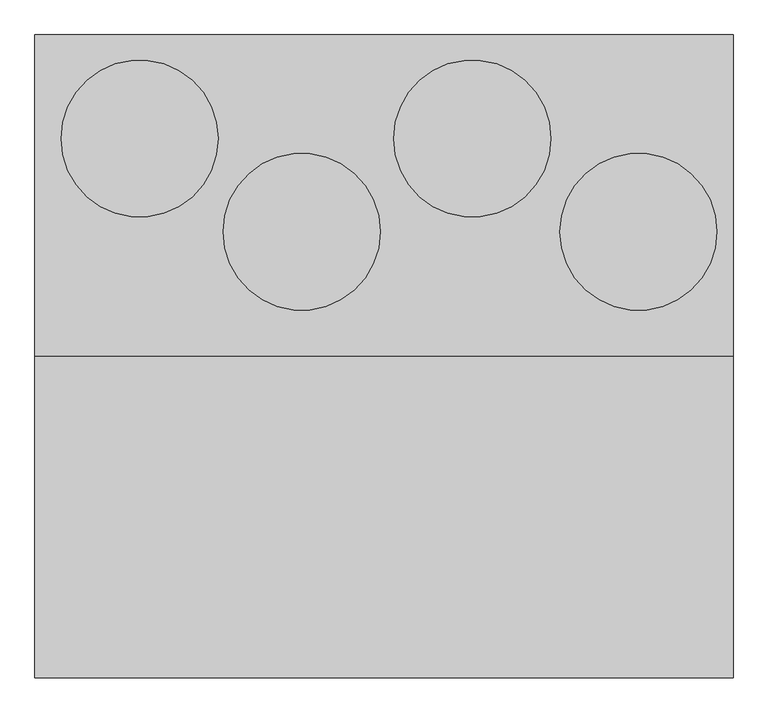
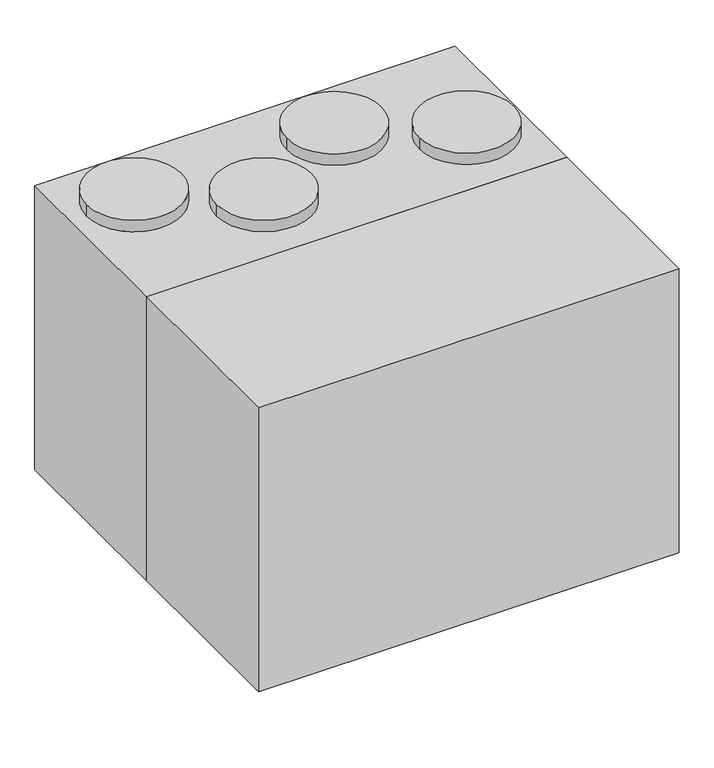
"""IFC4 building model written with IfcOpenShell, lengths in millimetres: proxy geometry, ADSK_КПВУ BRISSAGO VPE_круглая : Brissago VPE 1000."""

import ifcopenshell
import ifcopenshell.guid

model = None  # the IFC model being written
_history = None  # IfcOwnerHistory: only IFC2X3 demands one
_inside = {}  # id of a spatial element -> (the spatial element, [elements in it])
_under = {}  # id of a project, library or spatial element -> (it, [spatial elements below it])
_declared = {}  # id of a project -> (the project, [libraries it declares])
_typed = {}  # id of a type object -> (the type object, [elements of that type])
_made_of = {}  # id of a material, layer set ... -> (it, [elements and type objects made of it])


def new_model(schema):
    """Start an empty IFC model of exactly this schema.

    Asked for "IFC4X3", IfcOpenShell would pick the latest addendum, in which some entities
    have other attributes; the version numbers below select the first issue.
    IFC2X3 requires an IfcOwnerHistory on every rooted entity: one is made here for all.
    """
    global model, _history
    if schema == "IFC4X3":
        model = ifcopenshell.file(schema_version=(4, 3, 0, 0))
    else:
        model = ifcopenshell.file(schema=schema)
    _inside.clear()
    _under.clear()
    _declared.clear()
    _typed.clear()
    _made_of.clear()
    _history = None
    if model.schema == "IFC2X3":
        org = make("IfcOrganization", Name="unknown")
        user = make(
            "IfcPersonAndOrganization",
            ThePerson=make("IfcPerson", FamilyName="unknown"),
            TheOrganization=org,
        )
        app = make(
            "IfcApplication",
            ApplicationDeveloper=org,
            Version="unknown",
            ApplicationFullName="unknown",
            ApplicationIdentifier="unknown",
        )
        _history = make(
            "IfcOwnerHistory",
            OwningUser=user,
            OwningApplication=app,
            ChangeAction="ADDED",
            CreationDate=0,
        )
    return model


def make(cls, **values):
    """One entity of the class cls with the attributes given. An attribute that is None is left unset."""
    return model.create_entity(
        cls, **{name: value for name, value in values.items() if value is not None}
    )


def rooted(cls, **values):
    """An entity with a GlobalId (a new one), such as an element, a storey or a relation."""
    return make(cls, GlobalId=ifcopenshell.guid.new(), OwnerHistory=_history, **values)


def si_unit(unit_type, name, prefix=None):
    """IfcSIUnit, for example si_unit("LENGTHUNIT", "METRE", prefix="MILLI")."""
    return make("IfcSIUnit", UnitType=unit_type, Prefix=prefix, Name=name)


def assignment(units):
    """IfcUnitAssignment: the units of a project."""
    return None if units is None else make("IfcUnitAssignment", Units=units)


def point(xyz):
    """IfcCartesianPoint."""
    return None if xyz is None else make("IfcCartesianPoint", Coordinates=xyz)


def direction(xyz):
    """IfcDirection."""
    return None if xyz is None else make("IfcDirection", DirectionRatios=xyz)


def frame(location, z_axis=None, x_axis=None):
    """IfcAxis2Placement3D, a coordinate frame: its origin and axes. An axis left out is left unset."""
    return make(
        "IfcAxis2Placement3D",
        Location=point(location),
        Axis=direction(z_axis),
        RefDirection=direction(x_axis),
    )


def origin():
    """The frame at (0, 0, 0) with its axes left unset."""
    return frame((0.0, 0.0, 0.0))


def place(relative_to, where):
    """IfcLocalPlacement: puts the frame where relative to a parent placement (None: the world)."""
    return make(
        "IfcLocalPlacement", PlacementRelTo=relative_to, RelativePlacement=where
    )


def context(
    kind, dimensions, precision=None, world=None, true_north=None, identifier=None
):
    """IfcGeometricRepresentationContext, for example the 3D "Model" context."""
    return make(
        "IfcGeometricRepresentationContext",
        ContextIdentifier=identifier,
        ContextType=kind,
        CoordinateSpaceDimension=dimensions,
        Precision=precision,
        WorldCoordinateSystem=world,
        TrueNorth=true_north,
    )


def project(units=None, contexts=None):
    """IfcProject with its units and contexts."""
    return rooted(
        "IfcProject",
        Name="project",
        RepresentationContexts=contexts,
        UnitsInContext=assignment(units),
    )


def spatial(cls, under=None, at=None, **own):
    """A site, building, storey or space (cls), placed at a placement, below another one or the project."""
    s = rooted(cls, ObjectPlacement=at, **own)
    if under is not None:
        _under.setdefault(under.id(), (under, []))[1].append(s)
    return s


def polyline(points):
    """IfcPolyline through the points."""
    return make("IfcPolyline", Points=[point(p) for p in points])


def circle_curve(where, radius):
    """IfcCircle in the frame where."""
    return make("IfcCircle", Position=where, Radius=radius)


def outline(outer, holes=None, kind="AREA"):
    """IfcArbitraryClosedProfileDef: a profile drawn as a closed curve; with holes, ...WithVoids."""
    if holes is None:
        return make("IfcArbitraryClosedProfileDef", ProfileType=kind, OuterCurve=outer)
    return make(
        "IfcArbitraryProfileDefWithVoids",
        ProfileType=kind,
        OuterCurve=outer,
        InnerCurves=holes,
    )


def extrude(swept, where, along, depth):
    """IfcExtrudedAreaSolid: the profile swept, set in the frame where, extruded along a direction by depth."""
    return make(
        "IfcExtrudedAreaSolid",
        SweptArea=swept,
        Position=where,
        ExtrudedDirection=direction(along),
        Depth=depth,
    )


def shape(context_of_items, identifier, shape_type, items):
    """IfcShapeRepresentation: the items that make up one representation, for example the "Body"."""
    return make(
        "IfcShapeRepresentation",
        ContextOfItems=context_of_items,
        RepresentationIdentifier=identifier,
        RepresentationType=shape_type,
        Items=items,
    )


def source(mapping_origin, context_of_items, identifier, shape_type, items):
    """IfcRepresentationMap: a shape defined once, which mapped items show again and again."""
    return make(
        "IfcRepresentationMap",
        MappingOrigin=mapping_origin,
        MappedRepresentation=shape(context_of_items, identifier, shape_type, items),
    )


def transform(
    local_origin,
    x_axis=None,
    y_axis=None,
    z_axis=None,
    scale=None,
    scale2=None,
    scale3=None,
    uniform=True,
):
    """IfcCartesianTransformationOperator3D, or its non-uniform kind. x_axis, y_axis, z_axis: its Axis1, 2, 3."""
    if uniform:
        return make(
            "IfcCartesianTransformationOperator3D",
            Axis1=direction(x_axis),
            Axis2=direction(y_axis),
            LocalOrigin=point(local_origin),
            Scale=scale,
            Axis3=direction(z_axis),
        )
    return make(
        "IfcCartesianTransformationOperator3DnonUniform",
        Axis1=direction(x_axis),
        Axis2=direction(y_axis),
        LocalOrigin=point(local_origin),
        Scale=scale,
        Axis3=direction(z_axis),
        Scale2=scale2,
        Scale3=scale3,
    )


def mapped(mapping_source, mapping_target):
    """IfcMappedItem: shows the shape of a source again, moved by a transform."""
    return make(
        "IfcMappedItem", MappingSource=mapping_source, MappingTarget=mapping_target
    )


def made_of(thing, what):
    """Note that an element or type object is made of a material, layer set ...; save() writes the relation."""
    if what is not None:
        _made_of.setdefault(what.id(), (what, []))[1].append(thing)
    return thing


def element(
    cls,
    number,
    at=None,
    inside=None,
    cuts=None,
    type_object=None,
    material=None,
    context=None,
    identifier="Body",
    shape_type=None,
    held_by="IfcProductDefinitionShape",
    body=None,
    shapes=None,
    **own,
):
    """One element of the class cls, such as IfcWall. Its Tag is "e" and its number.

    at: its placement. inside: the storey or other place that contains it. cuts: it is an
    opening in that element (IfcRelVoidsElement). A single representation is given by context,
    identifier, shape_type and body (its items); several are given by shapes. held_by: the class
    of the entity that holds the representations. save() writes the other relations.
    """
    e = rooted(cls, Tag="e%d" % number, ObjectPlacement=at, **own)
    if body is not None:
        shapes = [shape(context, identifier, shape_type, body)]
    if shapes is not None:
        e.Representation = make(held_by, Representations=shapes)
    if inside is not None:
        _inside.setdefault(inside.id(), (inside, []))[1].append(e)
    if cuts is not None:
        rooted(
            "IfcRelVoidsElement", RelatingBuildingElement=cuts, RelatedOpeningElement=e
        )
    if type_object is not None:
        _typed.setdefault(type_object.id(), (type_object, []))[1].append(e)
    return made_of(e, material)


def aggregate(whole, parts):
    """IfcRelAggregates: a whole, such as a stair, and the parts it consists of."""
    return rooted("IfcRelAggregates", RelatingObject=whole, RelatedObjects=parts)


def save(model, path):
    """Write the relations noted so far, then the file.

    IfcRelAggregates (storeys below a building ...), IfcRelContainedInSpatialStructure (elements
    in a storey), IfcRelDefinesByType, IfcRelAssociatesMaterial and IfcRelDeclares: one each for
    every whole, place, type object, material and project.
    """
    for whole, parts in _under.values():
        aggregate(whole, parts)
    for where, things in _inside.values():
        rooted(
            "IfcRelContainedInSpatialStructure",
            RelatedElements=things,
            RelatingStructure=where,
        )
    for kind, things in _typed.values():
        rooted("IfcRelDefinesByType", RelatedObjects=things, RelatingType=kind)
    for what, things in _made_of.values():
        rooted("IfcRelAssociatesMaterial", RelatedObjects=things, RelatingMaterial=what)
    for by, libraries in _declared.values():
        rooted("IfcRelDeclares", RelatingContext=by, RelatedDefinitions=libraries)
    model.write(path)


def plane_surface(at):
    """IfcPlane: the flat surface through the origin of the frame at, square to its z axis."""
    return make("IfcPlane", Position=at)


def cylinder_surface(at, radius):
    """IfcCylindricalSurface: all points at the distance radius from the z axis of the frame at."""
    return make("IfcCylindricalSurface", Position=at, Radius=radius)


def advanced_brep(points, edges, surfaces, faces):
    """IfcAdvancedBrep: a solid bounded by faces that lie on surfaces and meet in shared edges.

    An edge is (start, end): straight between two places in points (the first is 0);
    or (start, end, curve); or (start, end, curve, False) where it runs against its curve.
    A face is (place in surfaces, loops), or (place, loops, False) where it looks against
    its surface's normal. A loop lists edges by number (the first is 1), with a minus sign
    where the edge is run from its end to its start. The first loop is the outer one.
    """
    corners = [point(p) for p in points]
    vertices = [make("IfcVertexPoint", VertexGeometry=c) for c in corners]
    made = []
    for start, end, *more in edges:
        made.append(
            make(
                "IfcEdgeCurve",
                EdgeStart=vertices[start],
                EdgeEnd=vertices[end],
                EdgeGeometry=more[0] if more else make("IfcPolyline", Points=[corners[start], corners[end]]),
                SameSense=more[1] if len(more) > 1 else True,
            )
        )
    hull = []
    for where, loops, *sense in faces:
        bounds = []
        for j, loop in enumerate(loops):
            ring = [make("IfcOrientedEdge", EdgeElement=made[abs(k) - 1], Orientation=k > 0) for k in loop]
            bounds.append(
                make(
                    "IfcFaceOuterBound" if j == 0 else "IfcFaceBound",
                    Bound=make("IfcEdgeLoop", EdgeList=ring),
                    Orientation=True,
                )
            )
        hull.append(make("IfcAdvancedFace", Bounds=bounds, FaceSurface=surfaces[where], SameSense=sense[0] if sense else True))
    return make("IfcAdvancedBrep", Outer=make("IfcClosedShell", CfsFaces=hull))


def mechanical_equipment_93a356b6(model_context):
    return source(origin(), model_context, "Body", "SolidModel", [
        extrude(outline(polyline([(966.0, -322.5), (966.0, -967.5), (-434.0, -967.5), (-434.0, -322.5), (966.0, -322.5)])), frame((0.0, 0.0, 145.0), z_axis=(0.0, 0.0, 1.0), x_axis=(1.0, 0.0, 0.0)), (0.0, 0.0, 1.0), 1000.0),
        advanced_brep(
        [(-194.0, -322.5, 0.0), (-194.0, -322.5, 145.0), (746.0, -322.5, 145.0), (746.0, -322.5, 0.0), (806.0, -322.5, 0.0), (806.0, -322.5, 145.0), (966.0, -322.5, 145.0), (966.0, -322.5, 1145.0), (-434.0, -322.5, 1145.0), (-434.0, -322.5, 145.0), (-254.0, -322.5, 145.0), (-254.0, -322.5, 0.0), (-204.0, -322.5, 10.0), (-244.0, -322.5, 10.0), (-244.0, -322.5, 145.0), (-204.0, -322.5, 145.0), (796.0, -322.5, 10.0), (756.0, -322.5, 10.0), (756.0, -322.5, 145.0), (796.0, -322.5, 145.0), (-194.0, 322.5, 0.0), (-254.0, 322.5, 0.0), (-254.0, 322.5, 145.0), (-434.0, 322.5, 145.0), (-434.0, 322.5, 1145.0), (966.0, 322.5, 1145.0), (966.0, 322.5, 145.0), (806.0, 322.5, 145.0), (806.0, 322.5, 0.0), (746.0, 322.5, 0.0), (746.0, 322.5, 145.0), (-194.0, 322.5, 145.0), (-204.0, 322.5, 10.0), (-204.0, 322.5, 145.0), (-244.0, 322.5, 145.0), (-244.0, 322.5, 10.0), (796.0, 322.5, 10.0), (796.0, 322.5, 145.0), (756.0, 322.5, 145.0), (756.0, 322.5, 10.0), (-381.5, 114.5, 1185.0), (-66.5, 114.5, 1185.0), (-56.5, -72.5, 1185.0), (258.5, -72.5, 1185.0), (285.5, 114.5, 1185.0), (600.5, 114.5, 1185.0), (618.5, -72.5, 1185.0), (933.5, -72.5, 1185.0), (-381.5, 114.5, 1145.0), (-66.5, 114.5, 1145.0), (-56.5, -72.5, 1145.0), (258.5, -72.5, 1145.0), (285.5, 114.5, 1145.0), (600.5, 114.5, 1145.0), (618.5, -72.5, 1145.0), (933.5, -72.5, 1145.0)],
        [
            (0, 1),
            (1, 2),
            (2, 3),
            (3, 4),
            (4, 5),
            (5, 6),
            (6, 7),
            (7, 8),
            (8, 9),
            (9, 10),
            (10, 11),
            (11, 0),
            (12, 13),
            (13, 14),
            (14, 15),
            (15, 12),
            (16, 17),
            (17, 18),
            (18, 19),
            (19, 16),
            (20, 21),
            (21, 22),
            (22, 23),
            (23, 24),
            (24, 25),
            (25, 26),
            (26, 27),
            (27, 28),
            (28, 29),
            (29, 30),
            (30, 31),
            (31, 20),
            (32, 33),
            (33, 34),
            (34, 35),
            (35, 32),
            (36, 37),
            (37, 38),
            (38, 39),
            (39, 36),
            (21, 11),
            (10, 22),
            (20, 0),
            (31, 1),
            (32, 12),
            (15, 33),
            (35, 13),
            (34, 14),
            (4, 28),
            (27, 5),
            (36, 16),
            (19, 37),
            (39, 17),
            (38, 18),
            (29, 3),
            (2, 30),
            (40, 41, circle_curve(frame((-224.0, 114.5, 1185.0), z_axis=(0.0, 0.0, 1.0), x_axis=(1.0, 0.0, 0.0)), 157.5)),
            (41, 40, circle_curve(frame((-224.0, 114.5, 1185.0), z_axis=(0.0, 0.0, 1.0), x_axis=(1.0, 0.0, 0.0)), 157.5)),
            (42, 43, circle_curve(frame((101.0, -72.5, 1185.0), z_axis=(0.0, 0.0, 1.0), x_axis=(1.0, 0.0, 0.0)), 157.5)),
            (43, 42, circle_curve(frame((101.0, -72.5, 1185.0), z_axis=(0.0, 0.0, 1.0), x_axis=(1.0, 0.0, 0.0)), 157.5)),
            (44, 45, circle_curve(frame((443.0, 114.5, 1185.0), z_axis=(0.0, 0.0, 1.0), x_axis=(1.0, 0.0, 0.0)), 157.5)),
            (45, 44, circle_curve(frame((443.0, 114.5, 1185.0), z_axis=(0.0, 0.0, 1.0), x_axis=(1.0, 0.0, 0.0)), 157.5)),
            (46, 47, circle_curve(frame((776.0, -72.5, 1185.0), z_axis=(0.0, 0.0, 1.0), x_axis=(1.0, 0.0, 0.0)), 157.5)),
            (47, 46, circle_curve(frame((776.0, -72.5, 1185.0), z_axis=(0.0, 0.0, 1.0), x_axis=(1.0, 0.0, 0.0)), 157.5)),
            (40, 48),
            (48, 49, circle_curve(frame((-224.0, 114.5, 1145.0), z_axis=(0.0, 0.0, 1.0), x_axis=(1.0, 0.0, 0.0)), 157.5)),
            (49, 41),
            (49, 48, circle_curve(frame((-224.0, 114.5, 1145.0), z_axis=(0.0, 0.0, 1.0), x_axis=(1.0, 0.0, 0.0)), 157.5)),
            (42, 50),
            (50, 51, circle_curve(frame((101.0, -72.5, 1145.0), z_axis=(0.0, 0.0, 1.0), x_axis=(1.0, 0.0, 0.0)), 157.5)),
            (51, 43),
            (51, 50, circle_curve(frame((101.0, -72.5, 1145.0), z_axis=(0.0, 0.0, 1.0), x_axis=(1.0, 0.0, 0.0)), 157.5)),
            (44, 52),
            (52, 53, circle_curve(frame((443.0, 114.5, 1145.0), z_axis=(0.0, 0.0, 1.0), x_axis=(1.0, 0.0, 0.0)), 157.5)),
            (53, 45),
            (53, 52, circle_curve(frame((443.0, 114.5, 1145.0), z_axis=(0.0, 0.0, 1.0), x_axis=(1.0, 0.0, 0.0)), 157.5)),
            (46, 54),
            (54, 55, circle_curve(frame((776.0, -72.5, 1145.0), z_axis=(0.0, 0.0, 1.0), x_axis=(1.0, 0.0, 0.0)), 157.5)),
            (55, 47),
            (55, 54, circle_curve(frame((776.0, -72.5, 1145.0), z_axis=(0.0, 0.0, 1.0), x_axis=(1.0, 0.0, 0.0)), 157.5)),
            (6, 26),
            (25, 7),
            (8, 24),
            (23, 9),
        ],
        [
            plane_surface(frame((-194.0, -322.5, 0.0), z_axis=(0.0, -1.0, 0.0), x_axis=(0.0, 0.0, 1.0))),
            plane_surface(frame((-194.0, 322.5, 0.0), z_axis=(0.0, 1.0, 0.0), x_axis=(0.0, 0.0, -1.0))),
            plane_surface(frame((-254.0, -322.5, 175.0), z_axis=(-1.0, 0.0, 0.0), x_axis=(0.0, 1.0, 0.0))),
            plane_surface(frame((-254.0, -322.5, 0.0), z_axis=(0.0, 0.0, -1.0), x_axis=(0.0, 1.0, 0.0))),
            plane_surface(frame((-194.0, -322.5, 0.0), z_axis=(1.0, 0.0, 0.0), x_axis=(0.0, 1.0, 0.0))),
            plane_surface(frame((-204.0, -322.5, 175.0), z_axis=(-1.0, 0.0, 0.0), x_axis=(0.0, 1.0, 0.0))),
            plane_surface(frame((-204.0, -322.5, 10.0), z_axis=(0.0, 0.0, 1.0), x_axis=(0.0, 1.0, 0.0))),
            plane_surface(frame((-244.0, -322.5, 10.0), z_axis=(1.0, 0.0, 0.0), x_axis=(0.0, 1.0, 0.0))),
            plane_surface(frame((806.0, -322.5, 0.0), z_axis=(1.0, 0.0, 0.0), x_axis=(0.0, 1.0, 0.0))),
            plane_surface(frame((796.0, -322.5, 175.0), z_axis=(-1.0, 0.0, 0.0), x_axis=(0.0, 1.0, 0.0))),
            plane_surface(frame((796.0, -322.5, 10.0), z_axis=(0.0, 0.0, 1.0), x_axis=(0.0, 1.0, 0.0))),
            plane_surface(frame((756.0, -322.5, 10.0), z_axis=(1.0, 0.0, 0.0), x_axis=(0.0, 1.0, 0.0))),
            plane_surface(frame((746.0, -322.5, 175.0), z_axis=(-1.0, 0.0, 0.0), x_axis=(0.0, 1.0, 0.0))),
            plane_surface(frame((746.0, -322.5, 0.0), z_axis=(0.0, 0.0, -1.0), x_axis=(0.0, 1.0, 0.0))),
            plane_surface(frame((-66.5, 114.5, 1185.0), z_axis=(0.0, 0.0, 1.0), x_axis=(0.0, 1.0, 0.0))),
            cylinder_surface(frame((-224.0, 114.5, 1145.0), z_axis=(0.0, 0.0, 1.0), x_axis=(1.0, 0.0, 0.0)), 157.5),
            cylinder_surface(frame((101.0, -72.5, 0.0), z_axis=(0.0, 0.0, 1.0), x_axis=(1.0, 0.0, 0.0)), 157.5),
            cylinder_surface(frame((443.0, 114.5, 0.0), z_axis=(0.0, 0.0, 1.0), x_axis=(1.0, 0.0, 0.0)), 157.5),
            cylinder_surface(frame((776.0, -72.5, 0.0), z_axis=(0.0, 0.0, 1.0), x_axis=(1.0, 0.0, 0.0)), 157.5),
            plane_surface(frame((966.0, -322.5, 1145.0), z_axis=(1.0, 0.0, 0.0), x_axis=(0.0, 0.0, -1.0))),
            plane_surface(frame((-434.0, -322.5, 1145.0), z_axis=(-1.0, 0.0, 0.0), x_axis=(0.0, 0.0, 1.0))),
            plane_surface(frame((966.0, -322.5, 145.0), z_axis=(0.0, 0.0, -1.0), x_axis=(-1.0, 0.0, 0.0))),
            plane_surface(frame((966.0, 322.5, 1145.0), z_axis=(0.0, 0.0, 1.0), x_axis=(-1.0, 0.0, 0.0))),
        ],
        [
            (0, [[1, 2, 3, 4, 5, 6, 7, 8, 9, 10, 11, 12], [13, 14, 15, 16], [17, 18, 19, 20]]),
            (1, [[21, 22, 23, 24, 25, 26, 27, 28, 29, 30, 31, 32], [33, 34, 35, 36], [37, 38, 39, 40]]),
            (2, [[41, -11, 42, -22]]),
            (3, [[-12, -41, -21, 43]]),
            (4, [[-43, -32, 44, -1]]),
            (5, [[45, -16, 46, -33]]),
            (6, [[-13, -45, -36, 47]]),
            (7, [[-47, -35, 48, -14]]),
            (8, [[49, -28, 50, -5]]),
            (9, [[51, -20, 52, -37]]),
            (10, [[-17, -51, -40, 53]]),
            (11, [[-53, -39, 54, -18]]),
            (12, [[55, -3, 56, -30]]),
            (13, [[-4, -55, -29, -49]]),
            (14, [[57, 58]]),
            (14, [[59, 60]]),
            (14, [[61, 62]]),
            (14, [[63, 64]]),
            (15, [[-57, 65, 66, 67]]),
            (15, [[-58, -67, 68, -65]]),
            (16, [[-59, 69, 70, 71]]),
            (16, [[-60, -71, 72, -69]]),
            (17, [[-61, 73, 74, 75]]),
            (17, [[-62, -75, 76, -73]]),
            (18, [[-63, 77, 78, 79]]),
            (18, [[-64, -79, 80, -77]]),
            (19, [[-7, 81, -26, 82]]),
            (20, [[83, -24, 84, -9]]),
            (21, [[-15, -48, -34, -46]]),
            (21, [[-19, -54, -38, -52]]),
            (21, [[-2, -44, -31, -56]]),
            (21, [[-81, -6, -50, -27]]),
            (21, [[-84, -23, -42, -10]]),
            (22, [[-82, -25, -83, -8], [-66, -68], [-70, -72], [-74, -76], [-78, -80]]),
        ],
    ),
    ])


if __name__ == "__main__":
    model = new_model("IFC4")
    model_context = context("Model", 3, world=origin())
    ifc_project = project(units=[si_unit("LENGTHUNIT", "METRE", prefix="MILLI")], contexts=[model_context])
    site = spatial("IfcSite", under=ifc_project)
    building = spatial("IfcBuilding", under=site)
    placement = place(None, origin())
    mechanical_equipment_shape = mechanical_equipment_93a356b6(model_context)
    element("IfcBuildingElementProxy", 1, Name="ADSK_КПВУ BRISSAGO VPE_круглая : Brissago VPE 1000", ObjectType="ADSK_КПВУ BRISSAGO VPE_круглая : Brissago VPE 1000", at=placement, inside=building, context=model_context, shape_type="MappedRepresentation", body=[
        mapped(mechanical_equipment_shape, transform((0.0, 0.0, 0.0), x_axis=(1.0, 0.0, 0.0), y_axis=(0.0, 1.0, 0.0), z_axis=(0.0, 0.0, 1.0))),
    ])
    save(model, "model.ifc")
